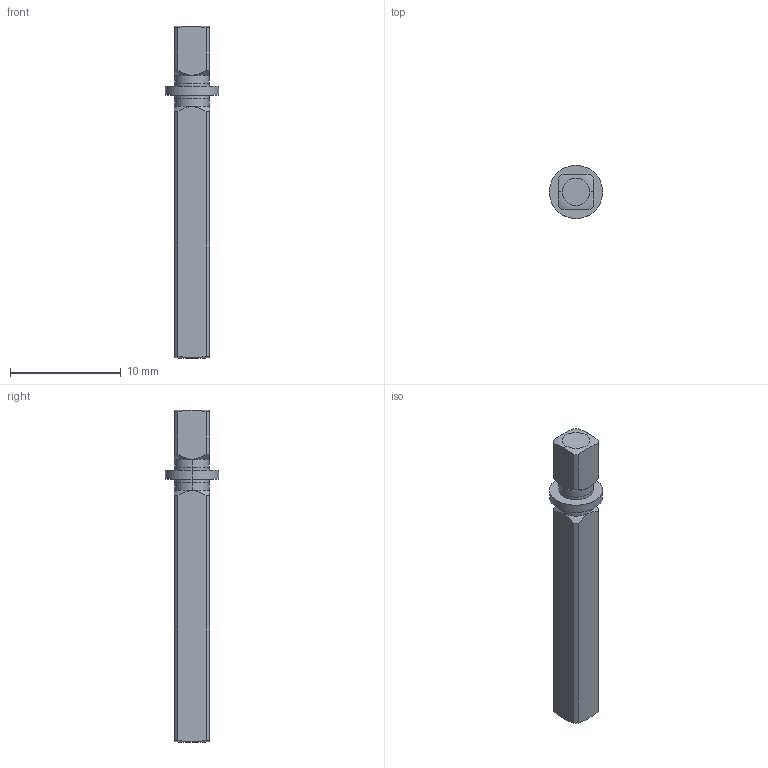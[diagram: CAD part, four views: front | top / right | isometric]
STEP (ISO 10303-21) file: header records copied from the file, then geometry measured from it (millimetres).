
FILE_DESCRIPTION (( 'STEP AP214' ), '1' );
FILE_NAME ('228-2500-2234.STEP', '2021-02-18T20:23:25', ( '' ), ( '' ), 'SwSTEP 2.0', 'SolidWorks 2019', '' );
FILE_SCHEMA (( 'AUTOMOTIVE_DESIGN' ));
Length unit declared in the file: millimetre
Products named in the file (3): 228-2500-2234-01 Rev3_228-2500-2234-01; 228-2500-2233-OVERMOLD Rev3_228-3445-2233-OVERMOLD; 228-2500-2234
Assembly tree (2 placements, depth 2):
  228-2500-2234
    228-2500-2234-01 Rev3_228-2500-2234-01
    228-2500-2233-OVERMOLD Rev3_228-3445-2233-OVERMOLD
Bounding box: 4.8 x 4.8 x 29.97 mm (x, y, z)
Volume: 297.6 mm3; surface area: 432.2 mm2
Topology: 2 solids, 2 shells, 46 faces, 110 edges, 72 vertices
Faces by surface type: cylinder 22, plane 16, torus 4, cone 4
Entity records: 1580 total; most frequent: CARTESIAN_POINT 393, DIRECTION 240, ORIENTED_EDGE 220, EDGE_CURVE 110, AXIS2_PLACEMENT_3D 103, VERTEX_POINT 72, EDGE_LOOP 52, CIRCLE 52
